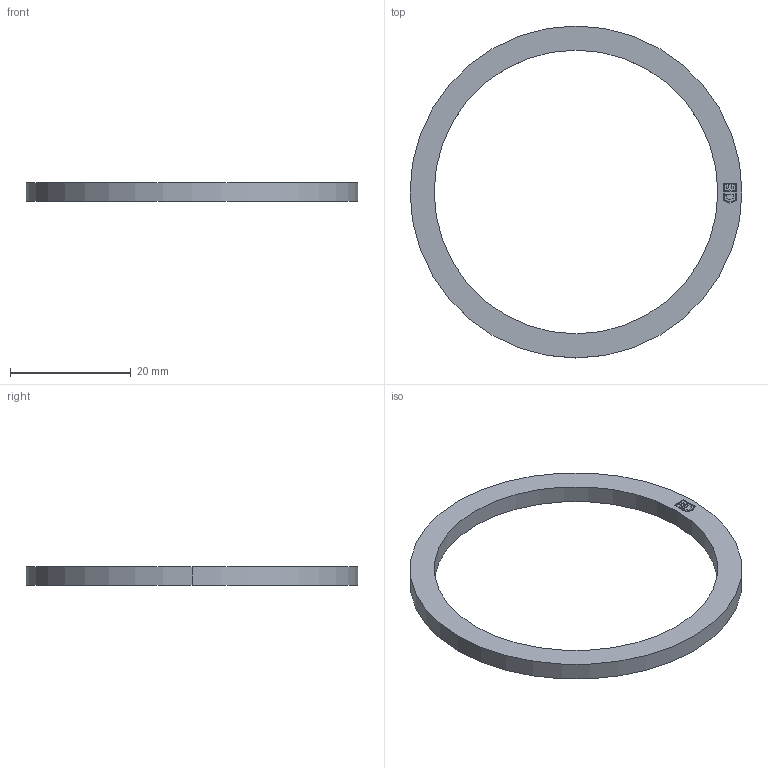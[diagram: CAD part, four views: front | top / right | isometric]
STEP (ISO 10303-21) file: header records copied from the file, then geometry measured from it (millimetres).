
FILE_DESCRIPTION (( 'STEP AP203' ), '1' );
FILE_NAME ('336 D.STEP', '2007-02-26T07:03:44', ( ' ' ), ( '' ), 'SwSTEP 2.0', 'SolidWorks 2005278', '' );
FILE_SCHEMA (( 'CONFIG_CONTROL_DESIGN' ));
Length unit declared in the file: millimetre
Products named in the file (1): 336 D
Bounding box: 55 x 55 x 3 mm (x, y, z)
Volume: 1922.3 mm3; surface area: 2246 mm2
Topology: 1 solids, 1 shells, 43 faces, 114 edges, 76 vertices
Faces by surface type: plane 39, cylinder 4
Entity records: 1397 total; most frequent: CARTESIAN_POINT 234, ORIENTED_EDGE 228, DIRECTION 210, EDGE_CURVE 114, VECTOR 106, LINE 106, VERTEX_POINT 76, AXIS2_PLACEMENT_3D 52
